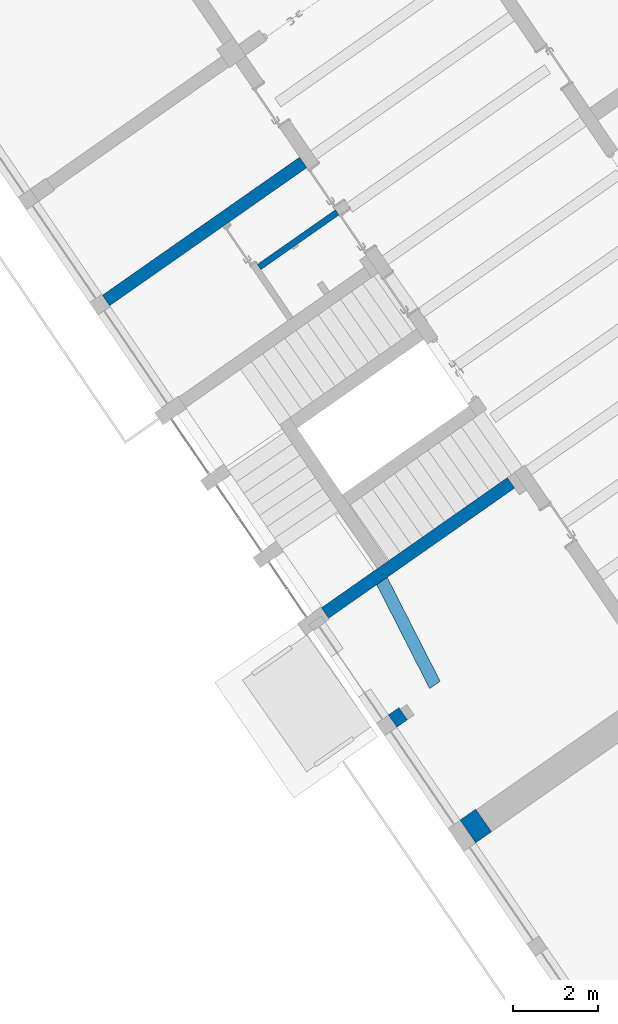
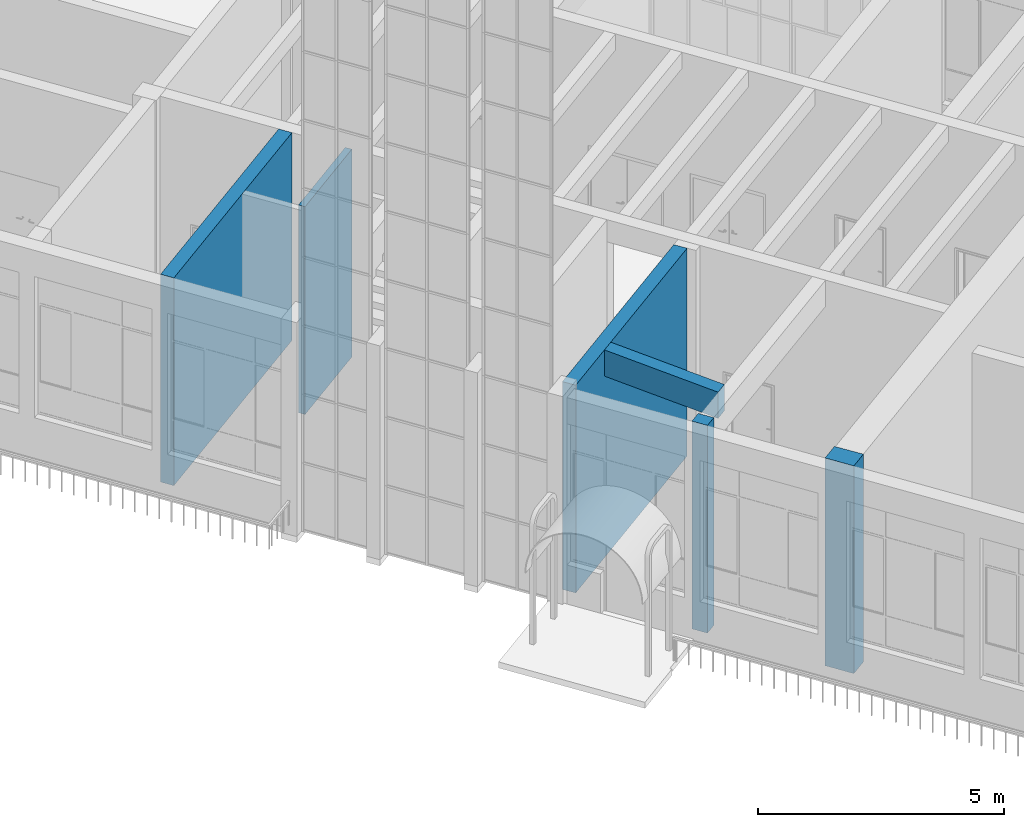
# One storey, part 69 of 157: 6 walls.
"""IFC2X3 building model written with IfcOpenShell, lengths in millimetres."""

from ifc_helpers import new_model, entity, si_unit, converted_unit, derived_unit, direction, frame, frame_2d, origin, place, context, subcontext, project, spatial, polyline, rectangle, outline, extrude, material, layer, layer_set, layer_usage, type_object, element, save


model = new_model("IFC2X3")

# Units and contexts
model_context = context("Model", 3, precision=0.01, world=origin(), true_north=direction((6.123031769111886e-17, 1.0)))
body_context = subcontext(model_context, "Body", "Model", "MODEL_VIEW")
ifc_project = project(units=[si_unit("LENGTHUNIT", "METRE", prefix="MILLI"), si_unit("AREAUNIT", "SQUARE_METRE"), si_unit("VOLUMEUNIT", "CUBIC_METRE"), converted_unit("PLANEANGLEUNIT", "DEGREE", entity("IfcRatioMeasure", 0.017453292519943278), si_unit("PLANEANGLEUNIT", "RADIAN"), dimensions=[0, 0, 0, 0, 0, 0, 0]), si_unit("MASSUNIT", "GRAM", prefix="KILO"), derived_unit("MASSDENSITYUNIT", [(si_unit("MASSUNIT", "GRAM", prefix="KILO"), 1), (si_unit("LENGTHUNIT", "METRE"), -3)]), derived_unit("MOMENTOFINERTIAUNIT", [(si_unit("LENGTHUNIT", "METRE"), 4)]), si_unit("TIMEUNIT", "SECOND"), si_unit("FREQUENCYUNIT", "HERTZ"), si_unit("THERMODYNAMICTEMPERATUREUNIT", "DEGREE_CELSIUS"), derived_unit("THERMALTRANSMITTANCEUNIT", [(si_unit("MASSUNIT", "GRAM", prefix="KILO"), 1), (si_unit("THERMODYNAMICTEMPERATUREUNIT", "KELVIN"), -1), (si_unit("TIMEUNIT", "SECOND"), -3)]), derived_unit("THERMALCONDUCTANCEUNIT", [(si_unit("MASSUNIT", "GRAM", prefix="KILO"), 1), (si_unit("LENGTHUNIT", "METRE"), 1), (si_unit("THERMODYNAMICTEMPERATUREUNIT", "KELVIN"), -1), (si_unit("TIMEUNIT", "SECOND"), -3)]), derived_unit("VOLUMETRICFLOWRATEUNIT", [(si_unit("LENGTHUNIT", "METRE"), 3), (si_unit("TIMEUNIT", "SECOND"), -1)]), derived_unit("MASSFLOWRATEUNIT", [(si_unit("MASSUNIT", "GRAM", prefix="KILO"), 1), (si_unit("TIMEUNIT", "SECOND"), -1)]), derived_unit("ROTATIONALFREQUENCYUNIT", [(si_unit("TIMEUNIT", "SECOND"), -1)]), si_unit("ELECTRICCURRENTUNIT", "AMPERE"), si_unit("ELECTRICVOLTAGEUNIT", "VOLT"), si_unit("POWERUNIT", "WATT"), converted_unit("FORCEUNIT", "KIP", entity("IfcRatioMeasure", 2.088543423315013e-05), si_unit("FORCEUNIT", "NEWTON"), dimensions=[1, 1, -2, 0, 0, 0, 0]), si_unit("ILLUMINANCEUNIT", "LUX"), si_unit("LUMINOUSFLUXUNIT", "LUMEN"), si_unit("LUMINOUSINTENSITYUNIT", "CANDELA"), derived_unit("USERDEFINED", [(si_unit("MASSUNIT", "GRAM", prefix="KILO"), -1), (si_unit("LENGTHUNIT", "METRE"), -2), (si_unit("TIMEUNIT", "SECOND"), 3), (si_unit("LUMINOUSFLUXUNIT", "LUMEN"), 1)]), derived_unit("USERDEFINED", [(si_unit("MASSUNIT", "GRAM", prefix="KILO"), 1), (si_unit("LENGTHUNIT", "METRE"), 3), (si_unit("TIMEUNIT", "SECOND"), -3), (si_unit("ELECTRICCURRENTUNIT", "AMPERE"), -2)]), derived_unit("USERDEFINED", [(si_unit("LENGTHUNIT", "METRE"), 2), (si_unit("TIMEUNIT", "SECOND"), -2)]), derived_unit("SOUNDPOWERUNIT", [(si_unit("MASSUNIT", "GRAM", prefix="KILO"), 1), (si_unit("LENGTHUNIT", "METRE"), 2), (si_unit("TIMEUNIT", "SECOND"), -3)]), derived_unit("SOUNDPRESSUREUNIT", [(si_unit("MASSUNIT", "GRAM", prefix="KILO"), 1), (si_unit("LENGTHUNIT", "METRE"), -1), (si_unit("TIMEUNIT", "SECOND"), -2)]), derived_unit("LINEARVELOCITYUNIT", [(si_unit("LENGTHUNIT", "METRE"), 1), (si_unit("TIMEUNIT", "SECOND"), -1)]), si_unit("PRESSUREUNIT", "PASCAL"), derived_unit("USERDEFINED", [(si_unit("LENGTHUNIT", "METRE"), -2), (si_unit("MASSUNIT", "GRAM", prefix="KILO"), 1), (si_unit("TIMEUNIT", "SECOND"), -2)]), derived_unit("LINEARFORCEUNIT", [(si_unit("MASSUNIT", "GRAM", prefix="KILO"), 1), (si_unit("LENGTHUNIT", "METRE"), 1), (si_unit("TIMEUNIT", "SECOND"), -2), (si_unit("LENGTHUNIT", "METRE"), -1)]), derived_unit("PLANARFORCEUNIT", [(si_unit("MASSUNIT", "GRAM", prefix="KILO"), 1), (si_unit("LENGTHUNIT", "METRE"), 1), (si_unit("TIMEUNIT", "SECOND"), -2), (si_unit("LENGTHUNIT", "METRE"), -2)]), derived_unit("SPECIFICHEATCAPACITYUNIT", [(si_unit("LENGTHUNIT", "METRE"), 2), (si_unit("TIMEUNIT", "SECOND"), -2), (si_unit("THERMODYNAMICTEMPERATUREUNIT", "KELVIN"), -1)]), derived_unit("VAPORPERMEABILITYUNIT", [(si_unit("TIMEUNIT", "SECOND"), 1), (si_unit("LENGTHUNIT", "METRE"), -1)]), derived_unit("DYNAMICVISCOSITYUNIT", [(si_unit("MASSUNIT", "GRAM", prefix="KILO"), 1), (si_unit("LENGTHUNIT", "METRE"), -1), (si_unit("TIMEUNIT", "SECOND"), -1)]), derived_unit("THERMALEXPANSIONCOEFFICIENTUNIT", [(si_unit("THERMODYNAMICTEMPERATUREUNIT", "KELVIN"), -1)])], contexts=[model_context])

# Site, building, storey
site_placement = place(None, frame((0.0, 0.0, 0.0), z_axis=(0.0, 0.0, 1.0), x_axis=(0.8191520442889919, 0.5735764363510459, 0.0)))
site = spatial("IfcSite", under=ifc_project, at=site_placement, Name="Default", CompositionType="ELEMENT")
building_placement = place(site_placement, origin())
building = spatial("IfcBuilding", under=site, at=building_placement, CompositionType="ELEMENT")
storey_placement = place(building_placement, origin())
storey = spatial("IfcBuildingStorey", under=building, at=storey_placement, Name="1.EG +0.00", CompositionType="ELEMENT", Elevation=-4.331468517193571e-12)

# Walls
ifc_material = material(Name="Analytical Wall Surface_CJC")
ifc_layer_1 = layer(ifc_material, 300.0)
ifc_layer_set_1 = layer_set([ifc_layer_1], Name="Basic Wall:Wand_Innen_30")
ifc_layer_usage_1 = layer_usage(ifc_layer_set_1, "AXIS2", "NEGATIVE", 150.0)
wall_type_1 = type_object("IfcWallType", Name="Basic Wall:Wand_Innen_30", PredefinedType="STANDARD", material=ifc_layer_set_1)
wall_1_placement = place(storey_placement, frame((-217353.6555984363, 109696.35891435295, 0.0), z_axis=(0.0, 0.0, 1.0), x_axis=(-1.0, 0.0, 0.0)))
element("IfcWallStandardCase", 1, at=wall_1_placement, inside=storey, type_object=wall_type_1, material=ifc_layer_usage_1, Name="Basic Wall:Wand_Innen_30", ObjectType="Basic Wall:Wand_Innen_30", context=body_context, shape_type="SweptSolid", body=[
    extrude(rectangle(XDim=5351.858665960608, YDim=300.0000000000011, at=frame_2d((2675.929332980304, 2.9700686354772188e-12), x_axis=(-1.0, 0.0))), origin(), (0.0, 0.0, 1.0), 5150.000000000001),
])
wall_2_placement = place(storey_placement, frame((-217032.34890885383, 118696.35891435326, 0.0), z_axis=(0.0, 0.0, 1.0), x_axis=(-1.0, 0.0, 0.0)))
element("IfcWallStandardCase", 2, at=wall_2_placement, inside=storey, type_object=wall_type_1, material=ifc_layer_usage_1, Name="Basic Wall:Wand_Innen_30", ObjectType="Basic Wall:Wand_Innen_30", context=body_context, shape_type="SweptSolid", body=[
    extrude(outline(polyline([(5675.843242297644, -150.0), (5679.6604605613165, 150.0), (2404.3693389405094, 150.0), (2254.3571842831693, 150.0), (3.8191857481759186, 150.0), (0.0, -150.0), (5675.843242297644, -150.0)])), origin(), (0.0, 0.0, 1.0), 5150.000000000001),
])
wall_3_placement = place(storey_placement, frame((-221560.65830390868, 106800.48294920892, 4500.0), z_axis=(0.0, 0.0, 1.0), x_axis=(0.13917310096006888, 0.9902680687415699, 0.0)))
element("IfcWallStandardCase", 3, at=wall_3_placement, inside=storey, type_object=wall_type_1, material=ifc_layer_usage_1, Name="Basic Wall:Wand_Innen_30", ObjectType="Basic Wall:Wand_Innen_30", context=body_context, shape_type="SweptSolid", body=[
    extrude(outline(polyline([(2793.942385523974, -150.0), (2751.780135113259, 150.0), (0.0, 150.0), (42.162250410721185, -150.0), (2793.942385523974, -150.0)])), origin(), (0.0, 0.0, 1.0), 650.0000000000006),
])
ifc_layer_2 = layer(ifc_material, 350.0)
ifc_layer_set_2 = layer_set([ifc_layer_2], Name="Basic Wall:Wand_Innen_35")
ifc_layer_usage_2 = layer_usage(ifc_layer_set_2, "AXIS2", "NEGATIVE", 175.0)
wall_type_2 = type_object("IfcWallType", Name="Basic Wall:Wand_Innen_35", PredefinedType="STANDARD", material=ifc_layer_set_2)
wall_4_placement = place(storey_placement, frame((-222560.55890820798, 106696.35891435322, 0.0), z_axis=(0.0, 0.0, 1.0), x_axis=(-1.0, 0.0, 0.0)))
element("IfcWallStandardCase", 4, at=wall_4_placement, inside=storey, type_object=wall_type_2, material=ifc_layer_usage_2, Name="Basic Wall:Wand_Innen_35", ObjectType="Basic Wall:Wand_Innen_35", context=body_context, shape_type="SweptSolid", body=[
    extrude(outline(polyline([(300.04861764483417, -175.0), (304.50433435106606, 175.0), (0.0, 175.0), (0.0, -175.0), (300.04861764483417, -175.0)])), origin(), (0.0, 0.0, 1.0), 5150.000000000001),
])
ifc_layer_3 = layer(ifc_material, 650.0)
ifc_layer_set_3 = layer_set([ifc_layer_3], Name="Basic Wall:Wand_Innen_65")
ifc_layer_usage_3 = layer_usage(ifc_layer_set_3, "AXIS2", "NEGATIVE", 325.0)
wall_type_3 = type_object("IfcWallType", Name="Basic Wall:Wand_Innen_65", PredefinedType="STANDARD", material=ifc_layer_set_3)
wall_5_placement = place(storey_placement, frame((-222907.0742857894, 103546.35891435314, 0.0)))
element("IfcWallStandardCase", 5, at=wall_5_placement, inside=storey, type_object=wall_type_3, material=ifc_layer_usage_3, Name="Basic Wall:Wand_Innen_65", ObjectType="Basic Wall:Wand_Innen_65", context=body_context, shape_type="SweptSolid", body=[
    extrude(outline(polyline([(458.31136642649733, -325.0), (458.3113664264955, 305.0), (458.3113664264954, 325.0), (8.274902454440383, 325.0), (0.0, -325.0), (458.31136642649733, -325.0)])), origin(), (0.0, 0.0, 1.0), 5150.000000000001),
])
ifc_layer_4 = layer(ifc_material, 150.0)
ifc_layer_set_4 = layer_set([ifc_layer_4], Name="Basic Wall:Wand_Innen_15")
ifc_layer_usage_4 = layer_usage(ifc_layer_set_4, "AXIS2", "NEGATIVE", 75.0)
wall_type_4 = type_object("IfcWallType", Name="Basic Wall:Wand_Innen_15", PredefinedType="STANDARD", material=ifc_layer_set_4)
wall_6_placement = place(storey_placement, frame((-219303.89242900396, 117271.35891435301, 0.0)))
element("IfcWallStandardCase", 6, at=wall_6_placement, inside=storey, type_object=wall_type_4, material=ifc_layer_usage_4, Name="Basic Wall:Wand_Innen_15", ObjectType="Basic Wall:Wand_Innen_15", context=body_context, shape_type="SweptSolid", body=[
    extrude(outline(polyline([(2250.537998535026, -75.0), (2252.447591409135, 75.0), (1.9095928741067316, 75.0), (0.0, -75.0), (900.072927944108, -75.0), (1050.0850826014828, -75.0), (2250.537998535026, -75.0)])), origin(), (0.0, 0.0, 1.0), 5150.000000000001),
])

save(model, "model.ifc")
